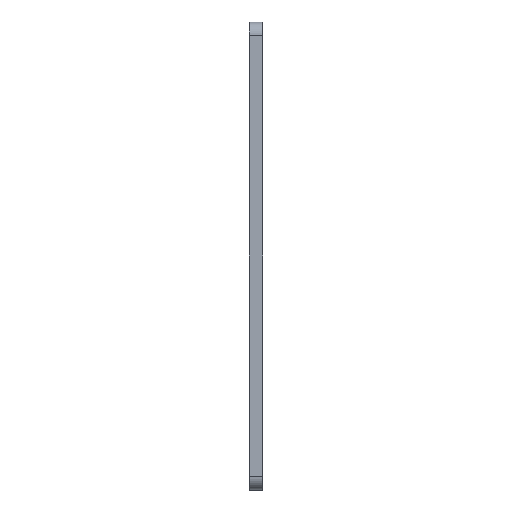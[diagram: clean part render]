
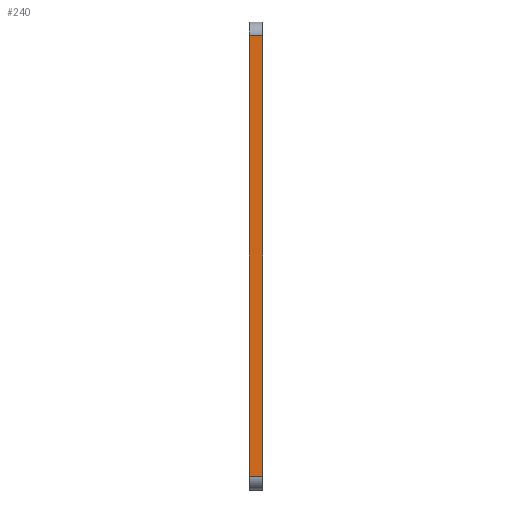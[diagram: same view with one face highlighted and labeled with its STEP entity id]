
A CAD part, left-side view. The second image highlights one B-rep face of the part: STEP entity #240.
In plain terms, the highlighted planar face has unit normal (-1, 0, 0).
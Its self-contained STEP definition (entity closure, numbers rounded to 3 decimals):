
#38 = DIRECTION ( 'NONE',  ( 0., 0., 1. ) ) ;
#73 = EDGE_LOOP ( 'NONE', ( #571, #726, #233, #390 ) ) ;
#109 = CARTESIAN_POINT ( 'NONE',  ( -28., 0., 70.5 ) ) ;
#113 = CARTESIAN_POINT ( 'NONE',  ( -28., 2.5, 70.5 ) ) ;
#140 = DIRECTION ( 'NONE',  ( 0., -1., 0. ) ) ;
#149 = DIRECTION ( 'NONE',  ( 0., 1., 0. ) ) ;
#195 = CARTESIAN_POINT ( 'NONE',  ( -28., 2.5, -10.5 ) ) ;
#214 = FACE_OUTER_BOUND ( 'NONE', #73, .T. ) ;
#227 = VECTOR ( 'NONE', #38, 1000. ) ;
#233 = ORIENTED_EDGE ( 'NONE', *, *, #868, .F. ) ;
#240 = ADVANCED_FACE ( 'NONE', ( #214 ), #574, .T. ) ;
#256 = CARTESIAN_POINT ( 'NONE',  ( -28., 0., -13. ) ) ;
#268 = VERTEX_POINT ( 'NONE', #113 ) ;
#281 = CARTESIAN_POINT ( 'NONE',  ( -28., 0., -10.5 ) ) ;
#295 = VECTOR ( 'NONE', #149, 1000. ) ;
#345 = VERTEX_POINT ( 'NONE', #195 ) ;
#357 = VECTOR ( 'NONE', #396, 1000. ) ;
#373 = CARTESIAN_POINT ( 'NONE',  ( -28., 0., 70.5 ) ) ;
#382 = VERTEX_POINT ( 'NONE', #871 ) ;
#390 = ORIENTED_EDGE ( 'NONE', *, *, #931, .T. ) ;
#396 = DIRECTION ( 'NONE',  ( 0., 0., 1. ) ) ;
#416 = DIRECTION ( 'NONE',  ( -1., 0., 0. ) ) ;
#486 = LINE ( 'NONE', #281, #846 ) ;
#567 = EDGE_CURVE ( 'NONE', #818, #268, #618, .T. ) ;
#569 = CARTESIAN_POINT ( 'NONE',  ( -28., 2.5, -13. ) ) ;
#571 = ORIENTED_EDGE ( 'NONE', *, *, #691, .T. ) ;
#573 = LINE ( 'NONE', #705, #357 ) ;
#574 = PLANE ( 'NONE',  #839 ) ;
#618 = LINE ( 'NONE', #373, #295 ) ;
#691 = EDGE_CURVE ( 'NONE', #382, #818, #573, .T. ) ;
#705 = CARTESIAN_POINT ( 'NONE',  ( -28., 0., -13. ) ) ;
#721 = DIRECTION ( 'NONE',  ( 0., 0., 1. ) ) ;
#726 = ORIENTED_EDGE ( 'NONE', *, *, #567, .T. ) ;
#818 = VERTEX_POINT ( 'NONE', #109 ) ;
#839 = AXIS2_PLACEMENT_3D ( 'NONE', #256, #416, #721 ) ;
#846 = VECTOR ( 'NONE', #140, 1000. ) ;
#868 = EDGE_CURVE ( 'NONE', #345, #268, #887, .T. ) ;
#871 = CARTESIAN_POINT ( 'NONE',  ( -28., 0., -10.5 ) ) ;
#887 = LINE ( 'NONE', #569, #227 ) ;
#931 = EDGE_CURVE ( 'NONE', #345, #382, #486, .T. ) ;
